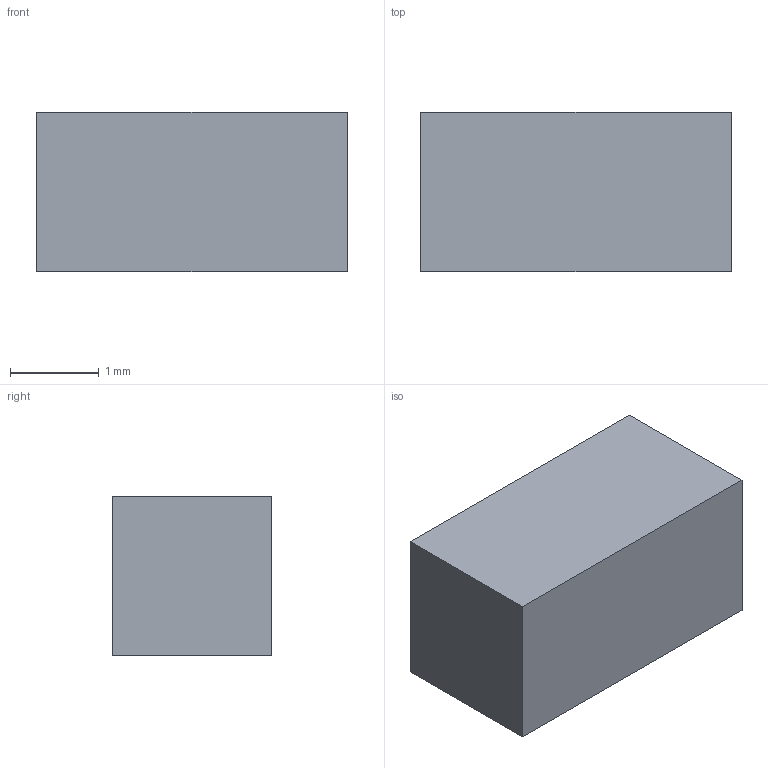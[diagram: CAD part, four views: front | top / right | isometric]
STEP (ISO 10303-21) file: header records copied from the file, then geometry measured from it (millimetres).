
FILE_DESCRIPTION(('Open CASCADE Model'),'2;1');
FILE_NAME('Open CASCADE Shape Model','2026-09-17T14:57:39',('Author'),( 'Open CASCADE'),'Open CASCADE STEP processor 7.8','Open CASCADE 7.8' ,'Unknown');
FILE_SCHEMA(('AUTOMOTIVE_DESIGN { 1 0 10303 214 1 1 1 1 }'));
Length unit declared in the file: millimetre
Products named in the file (1): Open CASCADE STEP translator 7.8 12
Bounding box: 3.5 x 1.8 x 1.8 mm (x, y, z)
Volume: 11.3 mm3; surface area: 31.7 mm2
Topology: 1 solids, 1 shells, 6 faces, 12 edges, 8 vertices
Faces by surface type: plane 6
Entity records: 322 total; most frequent: CARTESIAN_POINT 51, DIRECTION 50, LINE 36, VECTOR 36, ORIENTED_EDGE 24, PCURVE 24, DEFINITIONAL_REPRESENTATION 24, EDGE_CURVE 12
